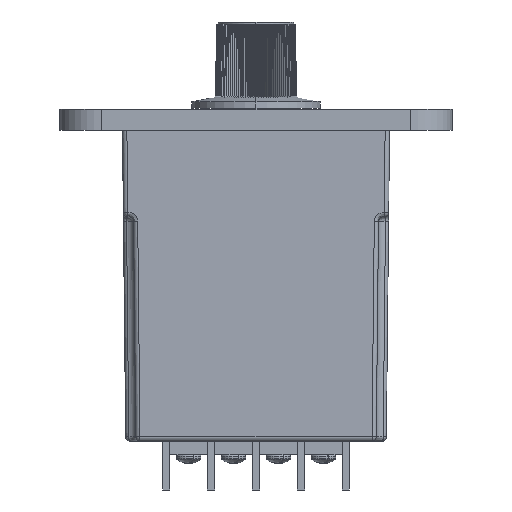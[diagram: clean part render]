
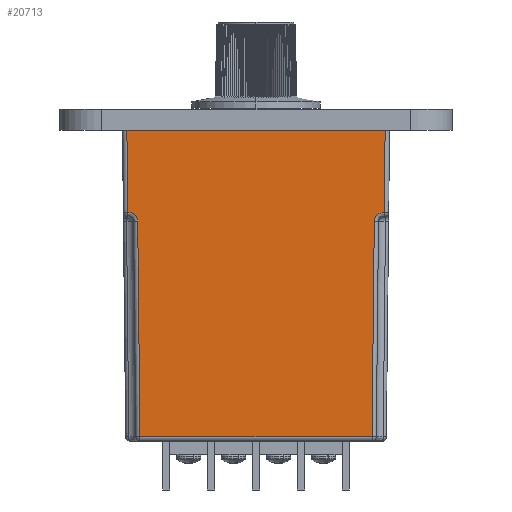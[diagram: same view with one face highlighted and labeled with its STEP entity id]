
A CAD part, front view. The second image highlights one B-rep face of the part: STEP entity #20713.
In plain terms, the highlighted planar face has unit normal (0, -1, -0.011).
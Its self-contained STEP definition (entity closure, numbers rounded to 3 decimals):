
#229 = CARTESIAN_POINT ( 'NONE',  ( 27.083, -22.021, -19.489 ) ) ;
#405 = DIRECTION ( 'NONE',  ( 0.01, -0.01, 1. ) ) ;
#774 = VERTEX_POINT ( 'NONE', #47996 ) ;
#1002 = CARTESIAN_POINT ( 'NONE',  ( 26.263, -21.499, -69.368 ) ) ;
#1888 = B_SPLINE_CURVE_WITH_KNOTS ( 'NONE', 3,
 ( #32644, #32979, #48260, #54353, #70059, #5576, #66075, #27284, #37593, #48970, #229, #21946, #42929, #59298, #54701, #54006 ),
 .UNSPECIFIED., .F., .F.,
 ( 4, 2, 2, 2, 2, 2, 2, 4 ),
 ( 0., 0., 0.001, 0.001, 0.002, 0.003, 0.003, 0.003 ),
 .UNSPECIFIED. ) ;
#2163 = EDGE_CURVE ( 'NONE', #69280, #31361, #32211, .T. ) ;
#2778 = LINE ( 'NONE', #57225, #47193 ) ;
#2998 = CARTESIAN_POINT ( 'NONE',  ( -26.857, -22.016, -19.994 ) ) ;
#3337 = CARTESIAN_POINT ( 'NONE',  ( -27.699, -22.027, -18.914 ) ) ;
#4048 = CARTESIAN_POINT ( 'NONE',  ( -27.27, -22.023, -19.273 ) ) ;
#4475 = ORIENTED_EDGE ( 'NONE', *, *, #48464, .T. ) ;
#5514 = LINE ( 'NONE', #48907, #16637 ) ;
#5576 = CARTESIAN_POINT ( 'NONE',  ( 28.068, -22.029, -18.731 ) ) ;
#6776 = ORIENTED_EDGE ( 'NONE', *, *, #41848, .T. ) ;
#7229 = CARTESIAN_POINT ( 'NONE',  ( 26.774, -22.01, -20.548 ) ) ;
#7712 = CARTESIAN_POINT ( 'NONE',  ( 29.226, -22.225, 0. ) ) ;
#8073 = VERTEX_POINT ( 'NONE', #1002 ) ;
#8443 = VERTEX_POINT ( 'NONE', #59652 ) ;
#8687 = ORIENTED_EDGE ( 'NONE', *, *, #15245, .T. ) ;
#9150 = EDGE_CURVE ( 'NONE', #66183, #66074, #1888, .T. ) ;
#11381 = EDGE_CURVE ( 'NONE', #54894, #16950, #64921, .T. ) ;
#14149 = ORIENTED_EDGE ( 'NONE', *, *, #15425, .T. ) ;
#14157 = VECTOR ( 'NONE', #16156, 1000. ) ;
#15007 = CARTESIAN_POINT ( 'NONE',  ( 29.028, -22.03, -18.574 ) ) ;
#15083 = CARTESIAN_POINT ( 'NONE',  ( -29.028, -22.03, -18.574 ) ) ;
#15245 = EDGE_CURVE ( 'NONE', #774, #51855, #69874, .T. ) ;
#15425 = EDGE_CURVE ( 'NONE', #51855, #54894, #37676, .T. ) ;
#16156 = DIRECTION ( 'NONE',  ( 0.01, 0.01, -1. ) ) ;
#16215 = CARTESIAN_POINT ( 'NONE',  ( 27.102, -21.499, -69.368 ) ) ;
#16637 = VECTOR ( 'NONE', #68136, 1000. ) ;
#16950 = VERTEX_POINT ( 'NONE', #47323 ) ;
#20713 = ADVANCED_FACE ( 'NONE', ( #57498 ), #25091, .T. ) ;
#21337 = CARTESIAN_POINT ( 'NONE',  ( -30.226, -22.225, 0. ) ) ;
#21887 = LINE ( 'NONE', #16215, #70260 ) ;
#21946 = CARTESIAN_POINT ( 'NONE',  ( 26.903, -22.017, -19.865 ) ) ;
#24502 = DIRECTION ( 'NONE',  ( 0.01, -0.01, 1. ) ) ;
#24596 = DIRECTION ( 'NONE',  ( 0.01, 0.01, -1. ) ) ;
#25034 = CARTESIAN_POINT ( 'NONE',  ( -26.793, -22.013, -20.266 ) ) ;
#25091 = PLANE ( 'NONE',  #57269 ) ;
#26127 = DIRECTION ( 'NONE',  ( 0., -0.01, 1. ) ) ;
#26874 = DIRECTION ( 'NONE',  ( 1., 0., 0. ) ) ;
#27284 = CARTESIAN_POINT ( 'NONE',  ( 27.695, -22.027, -18.917 ) ) ;
#30722 = CARTESIAN_POINT ( 'NONE',  ( -26.776, -22.011, -20.407 ) ) ;
#31037 = DIRECTION ( 'NONE',  ( 1., 0., 0. ) ) ;
#31081 = CARTESIAN_POINT ( 'NONE',  ( -28.748, -22.03, -18.574 ) ) ;
#31361 = VERTEX_POINT ( 'NONE', #66525 ) ;
#32211 = B_SPLINE_CURVE_WITH_KNOTS ( 'NONE', 3,
 ( #62774, #30722, #25034, #2998, #52090, #41023, #62423, #4048, #47414, #35715, #3337, #68481, #41717, #69185, #31081, #15083 ),
 .UNSPECIFIED., .F., .F.,
 ( 4, 2, 2, 2, 2, 2, 2, 4 ),
 ( 0., 0., 0.001, 0.001, 0.002, 0.002, 0.003, 0.003 ),
 .UNSPECIFIED. ) ;
#32644 = CARTESIAN_POINT ( 'NONE',  ( 29.028, -22.03, -18.574 ) ) ;
#32979 = CARTESIAN_POINT ( 'NONE',  ( 28.888, -22.03, -18.574 ) ) ;
#35715 = CARTESIAN_POINT ( 'NONE',  ( -27.584, -22.026, -18.992 ) ) ;
#35973 = CARTESIAN_POINT ( 'NONE',  ( -29.226, -22.225, 0. ) ) ;
#37593 = CARTESIAN_POINT ( 'NONE',  ( 27.578, -22.026, -18.996 ) ) ;
#37676 = LINE ( 'NONE', #21337, #45711 ) ;
#39675 = VECTOR ( 'NONE', #24596, 1000. ) ;
#40634 = CARTESIAN_POINT ( 'NONE',  ( 30.021, -22.03, -18.574 ) ) ;
#41023 = CARTESIAN_POINT ( 'NONE',  ( -27.025, -22.02, -19.611 ) ) ;
#41560 = ORIENTED_EDGE ( 'NONE', *, *, #52197, .T. ) ;
#41717 = CARTESIAN_POINT ( 'NONE',  ( -28.076, -22.029, -18.729 ) ) ;
#41848 = EDGE_CURVE ( 'NONE', #8443, #8073, #21887, .T. ) ;
#42479 = DIRECTION ( 'NONE',  ( 0., -1., -0.01 ) ) ;
#42929 = CARTESIAN_POINT ( 'NONE',  ( 26.855, -22.016, -19.999 ) ) ;
#43190 = CARTESIAN_POINT ( 'NONE',  ( -30.226, -22.225, 0. ) ) ;
#43407 = ORIENTED_EDGE ( 'NONE', *, *, #53865, .T. ) ;
#45360 = ORIENTED_EDGE ( 'NONE', *, *, #2163, .F. ) ;
#45711 = VECTOR ( 'NONE', #48350, 1000. ) ;
#47193 = VECTOR ( 'NONE', #24502, 1000. ) ;
#47323 = CARTESIAN_POINT ( 'NONE',  ( -29.032, -22.03, -18.574 ) ) ;
#47414 = CARTESIAN_POINT ( 'NONE',  ( -27.368, -22.024, -19.172 ) ) ;
#47905 = VECTOR ( 'NONE', #405, 1000. ) ;
#47996 = CARTESIAN_POINT ( 'NONE',  ( 29.032, -22.03, -18.574 ) ) ;
#48260 = CARTESIAN_POINT ( 'NONE',  ( 28.748, -22.03, -18.582 ) ) ;
#48350 = DIRECTION ( 'NONE',  ( -1., 0., 0. ) ) ;
#48464 = EDGE_CURVE ( 'NONE', #16950, #31361, #5514, .T. ) ;
#48907 = CARTESIAN_POINT ( 'NONE',  ( -27.634, -22.03, -18.574 ) ) ;
#48970 = CARTESIAN_POINT ( 'NONE',  ( 27.259, -22.023, -19.264 ) ) ;
#51855 = VERTEX_POINT ( 'NONE', #7712 ) ;
#51979 = CARTESIAN_POINT ( 'NONE',  ( -26.253, -21.488, -70.349 ) ) ;
#52090 = CARTESIAN_POINT ( 'NONE',  ( -26.903, -22.017, -19.863 ) ) ;
#52118 = ORIENTED_EDGE ( 'NONE', *, *, #11381, .T. ) ;
#52197 = EDGE_CURVE ( 'NONE', #69280, #8443, #60985, .T. ) ;
#52643 = CARTESIAN_POINT ( 'NONE',  ( -26.774, -22.01, -20.548 ) ) ;
#53865 = EDGE_CURVE ( 'NONE', #8073, #66074, #2778, .T. ) ;
#54006 = CARTESIAN_POINT ( 'NONE',  ( 26.774, -22.01, -20.548 ) ) ;
#54191 = CARTESIAN_POINT ( 'NONE',  ( 29.22, -22.218, -0.622 ) ) ;
#54353 = CARTESIAN_POINT ( 'NONE',  ( 28.473, -22.03, -18.618 ) ) ;
#54701 = CARTESIAN_POINT ( 'NONE',  ( 26.776, -22.011, -20.407 ) ) ;
#54894 = VERTEX_POINT ( 'NONE', #35973 ) ;
#57225 = CARTESIAN_POINT ( 'NONE',  ( 26.983, -22.219, -0.599 ) ) ;
#57269 = AXIS2_PLACEMENT_3D ( 'NONE', #43190, #42479, #26127 ) ;
#57498 = FACE_OUTER_BOUND ( 'NONE', #65396, .T. ) ;
#59298 = CARTESIAN_POINT ( 'NONE',  ( 26.792, -22.013, -20.269 ) ) ;
#59652 = CARTESIAN_POINT ( 'NONE',  ( -26.263, -21.499, -69.368 ) ) ;
#60985 = LINE ( 'NONE', #51979, #39675 ) ;
#62423 = CARTESIAN_POINT ( 'NONE',  ( -27.099, -22.021, -19.491 ) ) ;
#62774 = CARTESIAN_POINT ( 'NONE',  ( -26.774, -22.01, -20.548 ) ) ;
#63107 = LINE ( 'NONE', #40634, #66365 ) ;
#64561 = CARTESIAN_POINT ( 'NONE',  ( -29.226, -22.225, 0.01 ) ) ;
#64921 = LINE ( 'NONE', #64561, #14157 ) ;
#65396 = EDGE_LOOP ( 'NONE', ( #14149, #52118, #4475, #45360, #41560, #6776, #43407, #69107, #68194, #8687 ) ) ;
#66074 = VERTEX_POINT ( 'NONE', #7229 ) ;
#66075 = CARTESIAN_POINT ( 'NONE',  ( 27.94, -22.028, -18.785 ) ) ;
#66183 = VERTEX_POINT ( 'NONE', #15007 ) ;
#66365 = VECTOR ( 'NONE', #31037, 1000. ) ;
#66525 = CARTESIAN_POINT ( 'NONE',  ( -29.028, -22.03, -18.574 ) ) ;
#67946 = EDGE_CURVE ( 'NONE', #66183, #774, #63107, .T. ) ;
#68136 = DIRECTION ( 'NONE',  ( 1., 0., 0. ) ) ;
#68194 = ORIENTED_EDGE ( 'NONE', *, *, #67946, .T. ) ;
#68481 = CARTESIAN_POINT ( 'NONE',  ( -27.944, -22.028, -18.783 ) ) ;
#69107 = ORIENTED_EDGE ( 'NONE', *, *, #9150, .F. ) ;
#69185 = CARTESIAN_POINT ( 'NONE',  ( -28.474, -22.03, -18.605 ) ) ;
#69280 = VERTEX_POINT ( 'NONE', #52643 ) ;
#69874 = LINE ( 'NONE', #54191, #47905 ) ;
#70059 = CARTESIAN_POINT ( 'NONE',  ( 28.335, -22.03, -18.648 ) ) ;
#70260 = VECTOR ( 'NONE', #26874, 1000. ) ;
